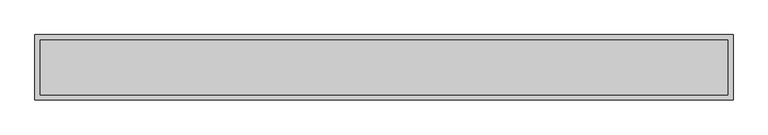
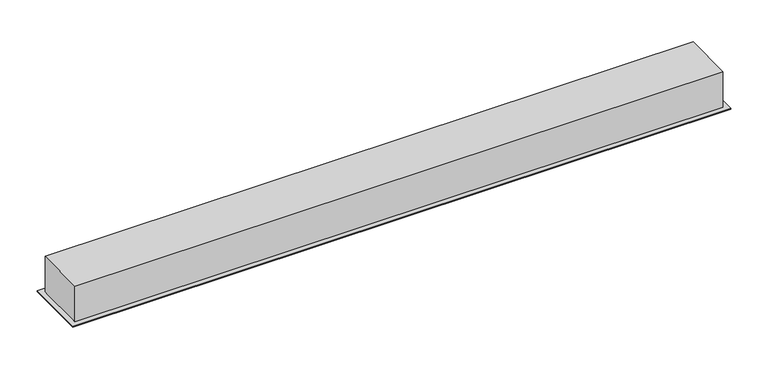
"""IFC4 building model written with IfcOpenShell, lengths in millimetres: light fixture geometry, GENILED_Светильник светодиодный_Trade Linear Standart Встраиваемый : Встраиваемый Trade Linear Standart 980x65x60 40Вт 90Ra Deep Опал Черный."""

import ifcopenshell
import ifcopenshell.guid

model = None  # the IFC model being written
_history = None  # IfcOwnerHistory: only IFC2X3 demands one
_inside = {}  # id of a spatial element -> (the spatial element, [elements in it])
_under = {}  # id of a project, library or spatial element -> (it, [spatial elements below it])
_declared = {}  # id of a project -> (the project, [libraries it declares])
_typed = {}  # id of a type object -> (the type object, [elements of that type])
_made_of = {}  # id of a material, layer set ... -> (it, [elements and type objects made of it])


def new_model(schema):
    """Start an empty IFC model of exactly this schema.

    Asked for "IFC4X3", IfcOpenShell would pick the latest addendum, in which some entities
    have other attributes; the version numbers below select the first issue.
    IFC2X3 requires an IfcOwnerHistory on every rooted entity: one is made here for all.
    """
    global model, _history
    if schema == "IFC4X3":
        model = ifcopenshell.file(schema_version=(4, 3, 0, 0))
    else:
        model = ifcopenshell.file(schema=schema)
    _inside.clear()
    _under.clear()
    _declared.clear()
    _typed.clear()
    _made_of.clear()
    _history = None
    if model.schema == "IFC2X3":
        org = make("IfcOrganization", Name="unknown")
        user = make(
            "IfcPersonAndOrganization",
            ThePerson=make("IfcPerson", FamilyName="unknown"),
            TheOrganization=org,
        )
        app = make(
            "IfcApplication",
            ApplicationDeveloper=org,
            Version="unknown",
            ApplicationFullName="unknown",
            ApplicationIdentifier="unknown",
        )
        _history = make(
            "IfcOwnerHistory",
            OwningUser=user,
            OwningApplication=app,
            ChangeAction="ADDED",
            CreationDate=0,
        )
    return model


def make(cls, **values):
    """One entity of the class cls with the attributes given. An attribute that is None is left unset."""
    return model.create_entity(
        cls, **{name: value for name, value in values.items() if value is not None}
    )


def rooted(cls, **values):
    """An entity with a GlobalId (a new one), such as an element, a storey or a relation."""
    return make(cls, GlobalId=ifcopenshell.guid.new(), OwnerHistory=_history, **values)


def si_unit(unit_type, name, prefix=None):
    """IfcSIUnit, for example si_unit("LENGTHUNIT", "METRE", prefix="MILLI")."""
    return make("IfcSIUnit", UnitType=unit_type, Prefix=prefix, Name=name)


def assignment(units):
    """IfcUnitAssignment: the units of a project."""
    return None if units is None else make("IfcUnitAssignment", Units=units)


def point(xyz):
    """IfcCartesianPoint."""
    return None if xyz is None else make("IfcCartesianPoint", Coordinates=xyz)


def direction(xyz):
    """IfcDirection."""
    return None if xyz is None else make("IfcDirection", DirectionRatios=xyz)


def frame(location, z_axis=None, x_axis=None):
    """IfcAxis2Placement3D, a coordinate frame: its origin and axes. An axis left out is left unset."""
    return make(
        "IfcAxis2Placement3D",
        Location=point(location),
        Axis=direction(z_axis),
        RefDirection=direction(x_axis),
    )


def origin():
    """The frame at (0, 0, 0) with its axes left unset."""
    return frame((0.0, 0.0, 0.0))


def place(relative_to, where):
    """IfcLocalPlacement: puts the frame where relative to a parent placement (None: the world)."""
    return make(
        "IfcLocalPlacement", PlacementRelTo=relative_to, RelativePlacement=where
    )


def context(
    kind, dimensions, precision=None, world=None, true_north=None, identifier=None
):
    """IfcGeometricRepresentationContext, for example the 3D "Model" context."""
    return make(
        "IfcGeometricRepresentationContext",
        ContextIdentifier=identifier,
        ContextType=kind,
        CoordinateSpaceDimension=dimensions,
        Precision=precision,
        WorldCoordinateSystem=world,
        TrueNorth=true_north,
    )


def project(units=None, contexts=None):
    """IfcProject with its units and contexts."""
    return rooted(
        "IfcProject",
        Name="project",
        RepresentationContexts=contexts,
        UnitsInContext=assignment(units),
    )


def spatial(cls, under=None, at=None, **own):
    """A site, building, storey or space (cls), placed at a placement, below another one or the project."""
    s = rooted(cls, ObjectPlacement=at, **own)
    if under is not None:
        _under.setdefault(under.id(), (under, []))[1].append(s)
    return s


def faces_of(points, faces, orient=None, outer=None):
    """IfcFace entities. A face is a list of loops; a loop is a list of indices into points, from 0.

    orient and outer hold one flag for each loop. By default every Orientation is true, the
    first loop of a face is its IfcFaceOuterBound and the others are IfcFaceBound.
    """
    made = []
    for i, loops in enumerate(faces):
        bounds = []
        for j, loop in enumerate(loops):
            is_outer = j == 0 if outer is None else outer[i][j]
            bounds.append(
                make(
                    "IfcFaceOuterBound" if is_outer else "IfcFaceBound",
                    Bound=make("IfcPolyLoop", Polygon=[points[k] for k in loop]),
                    Orientation=True if orient is None else orient[i][j],
                )
            )
        made.append(make("IfcFace", Bounds=bounds))
    return made


def faceted_brep(points, faces, orient=None, outer=None, voids=None):
    """IfcFacetedBrep: a solid bounded by flat faces; with voids (closed shells), ...WithVoids."""
    shared = [point(p) for p in points]
    hull = make("IfcClosedShell", CfsFaces=faces_of(shared, faces, orient, outer))
    if voids is None:
        return make("IfcFacetedBrep", Outer=hull)
    return make(
        "IfcFacetedBrepWithVoids",
        Outer=hull,
        Voids=[
            make(cls, CfsFaces=faces_of(shared, fs, o, b)) for cls, fs, o, b in voids
        ],
    )


def shape(context_of_items, identifier, shape_type, items):
    """IfcShapeRepresentation: the items that make up one representation, for example the "Body"."""
    return make(
        "IfcShapeRepresentation",
        ContextOfItems=context_of_items,
        RepresentationIdentifier=identifier,
        RepresentationType=shape_type,
        Items=items,
    )


def source(mapping_origin, context_of_items, identifier, shape_type, items):
    """IfcRepresentationMap: a shape defined once, which mapped items show again and again."""
    return make(
        "IfcRepresentationMap",
        MappingOrigin=mapping_origin,
        MappedRepresentation=shape(context_of_items, identifier, shape_type, items),
    )


def transform(
    local_origin,
    x_axis=None,
    y_axis=None,
    z_axis=None,
    scale=None,
    scale2=None,
    scale3=None,
    uniform=True,
):
    """IfcCartesianTransformationOperator3D, or its non-uniform kind. x_axis, y_axis, z_axis: its Axis1, 2, 3."""
    if uniform:
        return make(
            "IfcCartesianTransformationOperator3D",
            Axis1=direction(x_axis),
            Axis2=direction(y_axis),
            LocalOrigin=point(local_origin),
            Scale=scale,
            Axis3=direction(z_axis),
        )
    return make(
        "IfcCartesianTransformationOperator3DnonUniform",
        Axis1=direction(x_axis),
        Axis2=direction(y_axis),
        LocalOrigin=point(local_origin),
        Scale=scale,
        Axis3=direction(z_axis),
        Scale2=scale2,
        Scale3=scale3,
    )


def mapped(mapping_source, mapping_target):
    """IfcMappedItem: shows the shape of a source again, moved by a transform."""
    return make(
        "IfcMappedItem", MappingSource=mapping_source, MappingTarget=mapping_target
    )


def made_of(thing, what):
    """Note that an element or type object is made of a material, layer set ...; save() writes the relation."""
    if what is not None:
        _made_of.setdefault(what.id(), (what, []))[1].append(thing)
    return thing


def element(
    cls,
    number,
    at=None,
    inside=None,
    cuts=None,
    type_object=None,
    material=None,
    context=None,
    identifier="Body",
    shape_type=None,
    held_by="IfcProductDefinitionShape",
    body=None,
    shapes=None,
    **own,
):
    """One element of the class cls, such as IfcWall. Its Tag is "e" and its number.

    at: its placement. inside: the storey or other place that contains it. cuts: it is an
    opening in that element (IfcRelVoidsElement). A single representation is given by context,
    identifier, shape_type and body (its items); several are given by shapes. held_by: the class
    of the entity that holds the representations. save() writes the other relations.
    """
    e = rooted(cls, Tag="e%d" % number, ObjectPlacement=at, **own)
    if body is not None:
        shapes = [shape(context, identifier, shape_type, body)]
    if shapes is not None:
        e.Representation = make(held_by, Representations=shapes)
    if inside is not None:
        _inside.setdefault(inside.id(), (inside, []))[1].append(e)
    if cuts is not None:
        rooted(
            "IfcRelVoidsElement", RelatingBuildingElement=cuts, RelatedOpeningElement=e
        )
    if type_object is not None:
        _typed.setdefault(type_object.id(), (type_object, []))[1].append(e)
    return made_of(e, material)


def aggregate(whole, parts):
    """IfcRelAggregates: a whole, such as a stair, and the parts it consists of."""
    return rooted("IfcRelAggregates", RelatingObject=whole, RelatedObjects=parts)


def save(model, path):
    """Write the relations noted so far, then the file.

    IfcRelAggregates (storeys below a building ...), IfcRelContainedInSpatialStructure (elements
    in a storey), IfcRelDefinesByType, IfcRelAssociatesMaterial and IfcRelDeclares: one each for
    every whole, place, type object, material and project.
    """
    for whole, parts in _under.values():
        aggregate(whole, parts)
    for where, things in _inside.values():
        rooted(
            "IfcRelContainedInSpatialStructure",
            RelatedElements=things,
            RelatingStructure=where,
        )
    for kind, things in _typed.values():
        rooted("IfcRelDefinesByType", RelatedObjects=things, RelatingType=kind)
    for what, things in _made_of.values():
        rooted("IfcRelAssociatesMaterial", RelatedObjects=things, RelatingMaterial=what)
    for by, libraries in _declared.values():
        rooted("IfcRelDeclares", RelatingContext=by, RelatedDefinitions=libraries)
    model.write(path)


def light_fixture_5198e44a(model_context):
    return source(origin(), model_context, "Body", "Brep", [
        faceted_brep([(500.0, 40.0, 60.0), (-500.0, 40.0, 60.0), (-500.0, -40.0, 60.0), (500.0, -40.0, 60.0), (507.5, 47.5, 0.0), (507.5, -47.5, 0.0), (-507.5, -47.5, 0.0), (-507.5, 47.5, 0.0), (500.0, 40.0, 2.0), (-500.0, 40.0, 2.0), (-500.0, 32.5, 2.0), (-500.0, -32.5, 2.0), (-500.0, -40.0, 2.0), (500.0, -40.0, 2.0), (500.0, -32.5, 2.0), (500.0, 32.5, 2.0), (507.5, 47.5, 2.0), (-507.5, 47.5, 2.0), (-507.5, -47.5, 2.0), (507.5, -47.5, 2.0)], [[[0, 1, 2, 3]], [[4, 5, 6, 7]], [[1, 0, 8, 9]], [[2, 1, 9, 10, 11, 12]], [[3, 2, 12, 13]], [[0, 3, 13, 14, 15, 8]], [[16, 17, 18, 19], [9, 8, 15, 14, 13, 12, 11, 10]], [[17, 16, 4, 7]], [[18, 17, 7, 6]], [[19, 18, 6, 5]], [[16, 19, 5, 4]]]),
    ])


if __name__ == "__main__":
    model = new_model("IFC4")
    model_context = context("Model", 3, world=origin())
    ifc_project = project(units=[si_unit("LENGTHUNIT", "METRE", prefix="MILLI")], contexts=[model_context])
    site = spatial("IfcSite", under=ifc_project)
    building = spatial("IfcBuilding", under=site)
    placement = place(None, origin())
    light_fixture_shape = light_fixture_5198e44a(model_context)
    element("IfcLightFixture", 1, ObjectType="GENILED_Светильник светодиодный_Trade Linear Standart Встраиваемый : Встраиваемый Trade Linear Standart 980x65x60 40Вт 90Ra Deep Опал Черный", at=placement, inside=building, context=model_context, shape_type="MappedRepresentation", body=[
        mapped(light_fixture_shape, transform((0.0, 0.0, 0.0), x_axis=(1.0, 0.0, 0.0), y_axis=(0.0, 1.0, 0.0), z_axis=(0.0, 0.0, 1.0))),
    ])
    save(model, "model.ifc")
